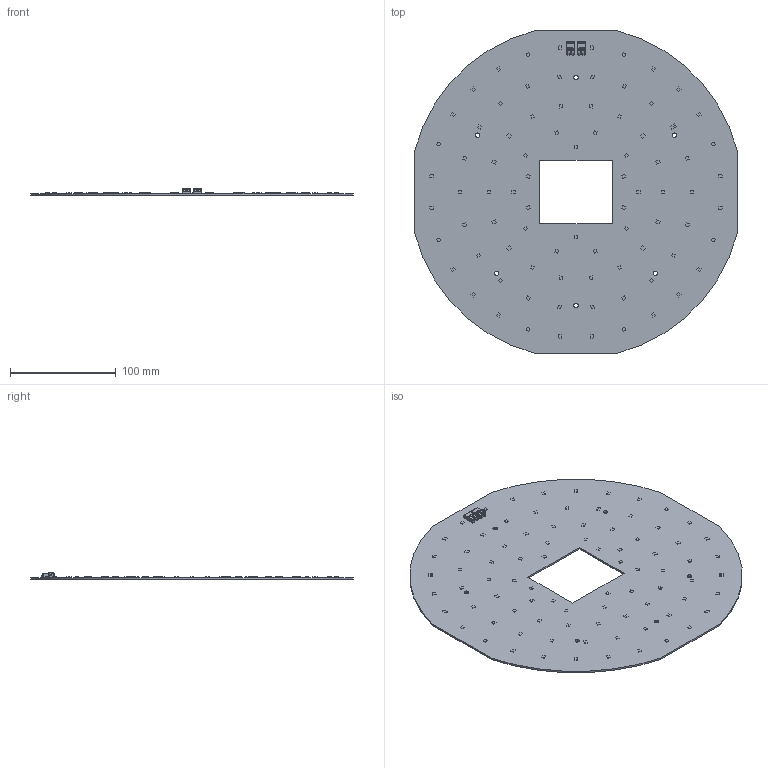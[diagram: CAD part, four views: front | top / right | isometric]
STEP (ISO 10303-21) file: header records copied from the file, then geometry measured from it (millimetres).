
FILE_DESCRIPTION((''),'2;1');
FILE_NAME('16208892_CLE-315-EM-SO-ADV5','2021-11-04T13:38:33',('Bernhard.Fink'),(''),'CREO PARAMETRIC BY PTC INC, 2019164','CREO PARAMETRIC BY PTC INC, 2019164','');
FILE_SCHEMA(('CONFIG_CONTROL_DESIGN'));
Length unit declared in the file: millimetre
Products named in the file (1): 16208892_CLE-315-EM-SO-ADV5
Bounding box: 305 x 305 x 6.15 mm (x, y, z)
Volume: 120859.9 mm3; surface area: 149110.6 mm2
Topology: 1 solids, 1 shells, 813 faces, 2146 edges, 1428 vertices
Faces by surface type: plane 685, cylinder 124, sphere 4
Entity records: 27016 total; most frequent: CARTESIAN_POINT 6559, ORIENTED_EDGE 4292, DIRECTION 3992, EDGE_CURVE 2146, VECTOR 1842, LINE 1842, VERTEX_POINT 1428, AXIS2_PLACEMENT_3D 1075
